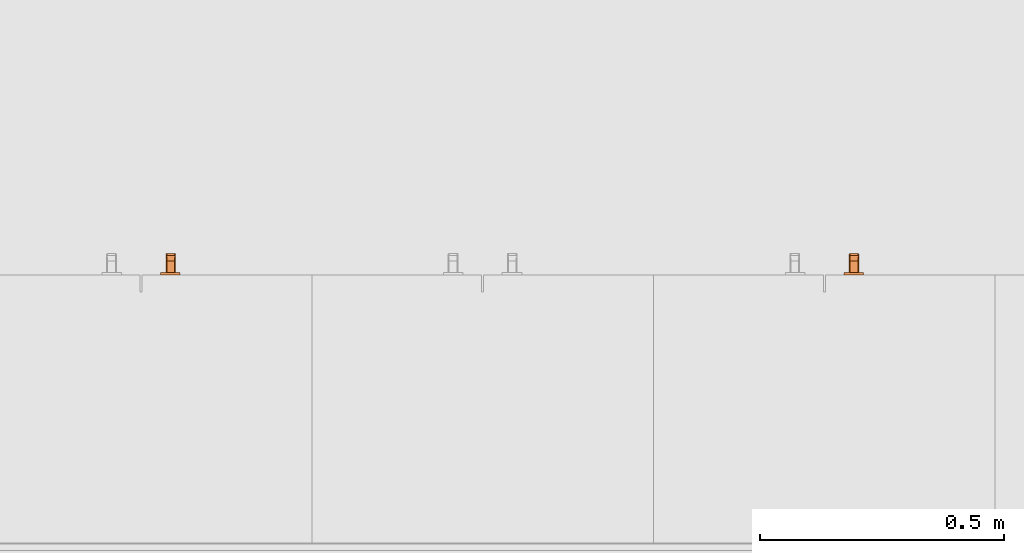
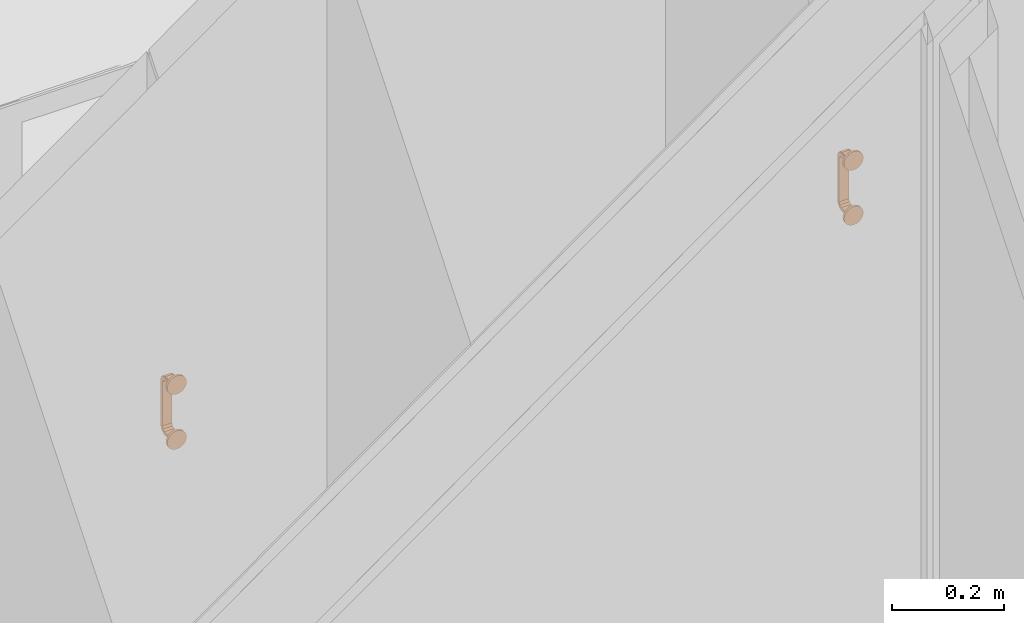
# One storey, part 45 of 67: 2 proxies.
"""IFC4 building model written with IfcOpenShell, lengths in millimetres."""

from ifc_helpers import new_model, entity, si_unit, converted_unit, direction, frame, origin, place, context, subcontext, project, spatial, polygons, source, transform, mapped, material, type_object, type_shapes, element, save


model = new_model("IFC4")

# Units and contexts
model_context = context("Model", 3, precision=0.01, world=origin(), true_north=direction((0.0, 1.0)))
body_context = subcontext(model_context, "Body", "Model", "MODEL_VIEW")
ifc_project = project(units=[si_unit("LENGTHUNIT", "METRE", prefix="MILLI"), si_unit("AREAUNIT", "SQUARE_METRE"), si_unit("VOLUMEUNIT", "CUBIC_METRE"), converted_unit("PLANEANGLEUNIT", "DEGREE", entity("IfcPlaneAngleMeasure", 0.017453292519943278), si_unit("PLANEANGLEUNIT", "RADIAN"), dimensions=[0, 0, 0, 0, 0, 0, 0])], contexts=[model_context])

# Site, building, storey, space
site_placement = place(None, origin())
site = spatial("IfcSite", under=ifc_project, at=site_placement, Name="Tomtens navn", CompositionType="ELEMENT")
building_placement = place(site_placement, origin())
building = spatial("IfcBuilding", under=site, at=building_placement, Name="Byggets navn", CompositionType="ELEMENT")
storey_placement = place(building_placement, origin())
storey = spatial("IfcBuildingStorey", under=building, at=storey_placement, Name="Level 01", CompositionType="ELEMENT", Elevation=2.1993652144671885e-25)
space_placement = place(storey_placement, origin())
space = spatial("IfcSpace", under=storey, at=space_placement, Name="102", CompositionType="ELEMENT", PredefinedType="NOTDEFINED")

# Proxies
ifc_material = material(Name="Handtag, vitt", Category="Unassigned")
building_element_proxy_type = type_object("IfcBuildingElementProxyType", Name="Handtag skåp1:Handtag skåp", PredefinedType="NOTDEFINED", material=ifc_material)
shared_shape = source(origin(), body_context, "Body", "Tessellation", [
    polygons([(8.670220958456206, 4.999999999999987, 4.021099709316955), (-7.329779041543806, 4.999999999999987, 4.021099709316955), (-8.743992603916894, 4.9999999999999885, 3.435313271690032), (-9.32977904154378, 4.999999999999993, 2.021099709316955), (-9.32977904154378, 5.0000000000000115, -4.0210997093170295), (10.67022095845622, 5.0000000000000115, -4.021099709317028), (10.67022095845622, 4.999999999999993, 2.0210997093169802), (10.084434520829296, 4.9999999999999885, 3.435313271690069), (10.67022095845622, 28.000000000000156, 2.0210997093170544), (10.084434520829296, 28.000000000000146, 3.435313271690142), (8.670220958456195, 28.000000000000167, 4.0210997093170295), (8.670220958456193, 15.654960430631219, 4.02109970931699), (10.67022095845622, 17.345040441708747, 2.02109970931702), (10.08659387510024, 16.21238630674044, 3.433150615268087), (10.67022095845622, 28.000000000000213, -4.021099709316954), (10.67022095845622, 33.64193450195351, -6.358065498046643), (10.67022095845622, 35.97890029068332, -11.999999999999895), (10.67022095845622, 35.97890029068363, -107.99999999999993), (10.67022095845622, 33.641934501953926, -113.64193450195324), (10.67022095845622, 28.000000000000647, -115.97890029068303), (10.67022095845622, 4.999999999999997, -115.97890029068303), (10.67022095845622, 4.999999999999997, -122.02109970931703), (10.67022095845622, 28.000000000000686, -122.02109970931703), (10.67022095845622, 37.914414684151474, -117.91441468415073), (10.67022095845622, 42.02109970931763, -107.99999999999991), (10.67022095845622, 42.0210997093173, -11.999999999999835), (10.67022095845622, 37.914414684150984, -2.085585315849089), (-9.32977904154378, 28.000000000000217, -4.021099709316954), (-9.32977904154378, 28.000000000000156, 2.02109970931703), (-9.32977904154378, 37.91441468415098, -2.085585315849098), (-9.32977904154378, 42.02109970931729, -11.999999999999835), (-9.32977904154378, 42.02109970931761, -107.99999999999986), (-9.32977904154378, 37.91441468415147, -117.91441468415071), (-9.32977904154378, 28.00000000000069, -122.02109970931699), (-9.32977904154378, 4.999999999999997, -122.021099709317), (-9.32977904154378, 4.999999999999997, -115.978900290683), (-9.32977904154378, 28.000000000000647, -115.97890029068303), (-9.32977904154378, 33.641934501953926, -113.64193450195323), (-9.32977904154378, 35.97890029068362, -107.99999999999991), (-9.32977904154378, 35.978900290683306, -11.999999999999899), (-9.32977904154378, 33.64193450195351, -6.358065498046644), (-7.329779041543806, 28.00000000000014, 4.0210997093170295), (-8.743992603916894, 28.000000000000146, 3.435313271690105), (-9.32977904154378, 15.654959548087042, 2.021099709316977), (-7.3297790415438, 17.34503999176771, 4.021099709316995), (-8.741829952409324, 16.21238644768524, 3.43747262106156), (10.084434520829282, 43.43531327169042, -11.999999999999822), (8.670220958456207, 44.021099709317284, -11.999999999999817), (8.670220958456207, 39.328628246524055, -0.6713717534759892), (10.67022095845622, 31.60126528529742, 0.5294067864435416), (8.670220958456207, 41.03771385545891, -4.797469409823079), (10.084434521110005, 40.40873190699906, -2.8200071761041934), (8.670220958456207, 35.20253058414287, 1.0377138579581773), (9.809043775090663, 37.34144424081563, 0.5752165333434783), (9.818751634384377, 32.92350079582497, 2.8642465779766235), (10.67022095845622, 39.96775719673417, -7.042792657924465), (10.377327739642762, 28.000000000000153, 2.7282064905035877), (8.670220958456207, 42.529406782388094, -8.398734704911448), (9.779150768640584, 42.65191997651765, -6.400304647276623), (10.431420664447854, 34.75591670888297, 1.357514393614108), (10.447049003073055, 37.64140257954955, -0.5884869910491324), (10.67022095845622, 34.7578399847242, -0.7780892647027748), (10.453824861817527, 31.52927433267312, 2.5026982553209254), (8.670220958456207, 31.601265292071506, 2.5294067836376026), (8.670220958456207, 40.18317105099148, -2.734420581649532), (9.435587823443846, 40.00295364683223, -1.6197407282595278), (9.543801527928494, 41.59747716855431, -3.9137042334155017), (10.67022095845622, 38.941085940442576, -4.564188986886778), (10.50224699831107, 40.95405539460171, -4.794062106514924), (10.477567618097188, 42.45420227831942, -8.47617064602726), (9.193272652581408, 43.80444460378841, -11.999999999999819), (9.638611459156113, 43.538770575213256, -9.303396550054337), (10.67022095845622, 40.99442845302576, -9.521396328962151), (-7.329779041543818, 44.021099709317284, -11.999999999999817), (-8.743992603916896, 43.43531327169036, -11.999999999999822), (-7.329779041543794, 39.328628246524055, -0.6713717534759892), (-7.329779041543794, 35.20253057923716, 1.0377138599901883), (-8.743992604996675, 37.179992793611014, 0.40873192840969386), (-9.32977904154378, 40.52940677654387, -8.398734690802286), (-7.329779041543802, 41.03771385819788, -4.797469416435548), (-8.468601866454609, 40.57521654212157, -2.6585557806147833), (-8.47830971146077, 42.864246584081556, -7.076499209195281), (-9.32977904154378, 32.95720734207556, -0.03224280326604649), (-9.036885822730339, 42.728206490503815, -11.999999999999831), (-7.329779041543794, 31.601265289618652, 2.529406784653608), (-8.43870885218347, 33.59969531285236, 2.6519199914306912), (-9.090978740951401, 41.357514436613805, -5.244083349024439), (-9.106607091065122, 39.41151304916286, -2.358597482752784), (-9.32977904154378, 39.22191073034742, -5.242160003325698), (-9.113382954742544, 42.502698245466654, -8.470725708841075), (-7.32977904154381, 42.52940678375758, -8.398734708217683), (-7.329779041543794, 37.26557941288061, 0.18317105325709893), (-8.095145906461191, 36.54048464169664, 1.37463273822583), (-8.18279176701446, 38.85536792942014, -0.47819170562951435), (-9.32977904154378, 35.43581101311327, -1.0589140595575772), (-7.852830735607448, 28.00000000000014, 3.8044446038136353), (-8.29816953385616, 30.69660343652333, 3.5387705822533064), (-9.060718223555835, 31.048754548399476, 2.7104148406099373), (-9.074370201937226, 34.340507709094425, 1.5930015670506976), (-9.32977904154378, 30.478603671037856, 0.9944284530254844), (-7.32977904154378, 33.664314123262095, 1.6748639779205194), (8.670220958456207, 33.664314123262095, 1.6748639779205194), (8.670220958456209, 30.748770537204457, 2.882521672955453), (-7.32977904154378, 41.67486397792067, -6.335685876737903), (8.670220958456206, 41.67486397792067, -6.335685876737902), (8.670220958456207, 40.50174611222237, -3.503528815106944), (-7.32977904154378, 36.496471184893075, 0.5017461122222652), (8.670220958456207, 36.496471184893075, 0.5017461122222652), (-7.32977904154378, 30.83215706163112, 2.847981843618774), (8.670220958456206, 42.882521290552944, -9.251228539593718), (-7.32977904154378, 42.84798184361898, -9.167842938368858), (-7.32977904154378, 40.50174611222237, -3.503528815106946), (10.084434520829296, 43.435313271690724, -107.99999999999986), (8.670220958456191, 44.0210997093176, -107.99999999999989), (10.67022095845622, 42.02109970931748, -61.380159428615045), (8.670220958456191, 44.021099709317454, -60.0000005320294), (8.670220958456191, 44.02109970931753, -83.30992070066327), (10.67022095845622, 42.021099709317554, -84.69007971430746), (8.670220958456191, 44.021099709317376, -36.690079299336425), (10.67022095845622, 42.02109970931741, -36.690079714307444), (10.67022095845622, 42.021099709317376, -24.34503985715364), (8.670220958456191, 44.02109970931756, -95.65496088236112), (8.670220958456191, 44.02109970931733, -24.34504018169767), (10.67022095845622, 42.021099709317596, -95.65496014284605), (10.084434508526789, 43.43531328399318, -90.17251993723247), (10.67022095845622, 42.02109970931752, -73.035119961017), (10.043884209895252, 43.4747328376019, -67.20763959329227), (10.084434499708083, 43.435313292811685, -30.517560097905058), (10.084434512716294, 43.435313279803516, -43.72292802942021), (10.67022095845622, 42.021099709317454, -49.03511957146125), (10.049878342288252, 43.469044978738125, -55.46284370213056), (8.67022095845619, 44.02109970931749, -71.65496114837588), (10.18815291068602, 43.32336027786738, -78.66752152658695), (8.670220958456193, 44.02109970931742, -48.34503991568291), (-7.329779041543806, 44.0210997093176, -107.99999999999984), (-8.743992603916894, 43.43531327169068, -107.99999999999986), (-7.3297790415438, 44.021099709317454, -61.38015981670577), (-9.32977904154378, 42.021099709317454, -59.999999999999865), (-9.32977904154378, 42.02109970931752, -83.30992051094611), (-7.329779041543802, 44.02109970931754, -84.69008022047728), (-9.32977904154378, 42.02109970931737, -36.69007991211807), (-7.329779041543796, 44.021099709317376, -36.69007990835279), (-7.329779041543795, 44.02109970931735, -24.345039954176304), (-9.32977904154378, 42.02109970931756, -95.65496025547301), (-9.32977904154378, 42.02109970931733, -24.345040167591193), (-7.329779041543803, 44.021099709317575, -95.65496067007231), (-8.743992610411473, 43.43531326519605, -90.17252002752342), (-7.3297790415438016, 44.0210997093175, -73.03512001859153), (-8.783412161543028, 43.39476296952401, -67.2076399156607), (-8.743992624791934, 43.4353132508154, -30.517560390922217), (-8.74399260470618, 43.43531327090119, -43.72292838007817), (-7.329779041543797, 44.02109970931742, -49.03511986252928), (-8.777724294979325, 43.40075710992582, -55.46284405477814), (-9.32977904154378, 42.02109970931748, -71.65496025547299), (-8.632039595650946, 43.53903167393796, -78.6675217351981), (-9.32977904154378, 42.02109970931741, -48.345039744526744), (10.08443452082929, 28.0000000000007, -123.43531327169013), (8.670220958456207, 28.000000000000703, -124.02109970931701), (8.670220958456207, 39.32862824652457, -119.32862824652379), (10.67022095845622, 40.52940678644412, -111.60126528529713), (8.670220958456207, 35.202530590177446, -121.03771385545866), (10.084434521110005, 37.179992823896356, -120.4087319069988), (8.670220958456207, 41.03771385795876, -115.20253058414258), (9.809043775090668, 40.575216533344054, -117.34144424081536), (9.818751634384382, 42.864246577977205, -112.9235007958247), (10.67022095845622, 32.95720734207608, -119.96775719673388), (10.377327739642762, 42.728206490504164, -107.99999999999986), (8.670220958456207, 31.601265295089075, -122.52940678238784), (9.779150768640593, 33.5996953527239, -122.65191997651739), (10.431420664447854, 41.357514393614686, -114.7559167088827), (10.447049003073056, 39.41151300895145, -117.64140257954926), (10.67022095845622, 39.2219107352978, -114.75783998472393), (10.453824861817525, 42.50269825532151, -111.52927433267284), (8.670220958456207, 42.52940678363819, -111.60126529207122), (8.670220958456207, 37.26557941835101, -120.18317105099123), (9.43558782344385, 38.38025927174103, -120.00295364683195), (9.543801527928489, 36.08629576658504, -121.59747716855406), (10.67022095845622, 35.435811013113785, -118.9410859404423), (10.50224699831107, 35.20593789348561, -120.95405539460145), (10.477567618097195, 31.523829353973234, -122.45420227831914), (9.193272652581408, 28.000000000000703, -123.80444460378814), (9.638611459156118, 30.696603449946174, -123.538770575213), (10.67022095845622, 30.47860367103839, -120.99442845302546), (-7.329779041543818, 28.000000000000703, -124.02109970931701), (-8.743992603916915, 28.0000000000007, -123.43531327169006), (-7.329779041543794, 39.32862824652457, -119.32862824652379), (-7.329779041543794, 41.03771385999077, -115.20253057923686), (-8.743992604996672, 40.40873192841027, -117.17999279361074), (-9.32977904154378, 31.601265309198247, -120.52940677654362), (-7.329779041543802, 35.20253058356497, -121.03771385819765), (-8.468601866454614, 37.34144421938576, -120.57521654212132), (-8.478309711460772, 32.92350079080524, -122.8642465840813), (-9.32977904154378, 39.967757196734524, -112.95720734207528), (-9.036885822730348, 28.000000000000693, -122.72820649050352), (-7.329779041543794, 42.529406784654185, -111.60126528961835), (-8.438708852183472, 42.65191999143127, -113.59969531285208), (-9.090978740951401, 34.75591665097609, -121.35751443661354), (-9.106607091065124, 37.64140251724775, -119.41151304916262), (-9.32977904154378, 34.75783999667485, -119.22191073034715), (-9.113382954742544, 31.529274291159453, -122.50269824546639), (-7.329779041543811, 31.601265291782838, -122.52940678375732), (-7.329779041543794, 40.18317105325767, -117.26557941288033), (-8.095145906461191, 41.37463273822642, -116.54048464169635), (-8.182791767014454, 39.52180829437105, -118.85536792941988), (-9.32977904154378, 38.941085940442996, -115.435811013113), (-7.852830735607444, 43.804444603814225, -107.99999999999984), (-8.298169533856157, 43.53877058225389, -110.69660343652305), (-9.060718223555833, 42.710414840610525, -111.04875454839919), (-9.074370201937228, 41.59300156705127, -114.34050770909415), (-9.32977904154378, 40.99442845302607, -110.47860367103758), (-7.32977904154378, 41.6748639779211, -113.66431412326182), (8.670220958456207, 41.6748639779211, -113.66431412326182), (8.670220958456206, 42.88252167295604, -110.74877053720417), (-7.32977904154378, 33.66431412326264, -121.67486397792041), (8.670220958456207, 33.66431412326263, -121.67486397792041), (8.670220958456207, 36.4964711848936, -120.50174611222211), (-7.32977904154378, 40.50174611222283, -116.4964711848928), (8.670220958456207, 40.50174611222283, -116.4964711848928), (-7.32977904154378, 42.84798184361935, -110.83215706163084), (8.670220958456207, 30.748771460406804, -122.88252129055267), (-7.329779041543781, 30.83215706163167, -122.84798184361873), (-7.32977904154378, 36.49647118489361, -120.50174611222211), (8.670220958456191, 4.99999999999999, -124.021099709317), (10.084434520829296, 4.99999999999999, -123.43531327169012), (-8.743992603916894, 4.99999999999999, -123.43531327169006), (-7.32977904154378, 4.99999999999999, -124.02109970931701), (8.670220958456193, 17.34504139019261, -124.021099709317), (10.67022095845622, 15.65496022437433, -122.02109970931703), (10.08659387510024, 16.787613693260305, -123.43315061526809), (-9.32977904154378, 17.34504010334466, -122.02109970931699), (-7.3297790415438, 15.6549594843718, -124.021099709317), (-8.741829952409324, 16.787613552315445, -123.43747262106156)], [[[4, 5, 6, 7, 8, 1, 2, 3]], [[18, 17, 40, 39]], [[226, 223, 224, 22, 21, 36, 35, 225]], [[13, 9, 57, 10]], [[14, 13, 10]], [[11, 12, 14]], [[1, 8, 12]], [[12, 8, 14]], [[13, 14, 7]], [[14, 8, 7]], [[14, 10, 11]], [[6, 15, 16, 17, 18, 19, 20, 21, 22, 228, 23, 183, 166, 178, 24, 172, 160, 25, 124, 118, 126, 115, 130, 120, 121, 26, 73, 56, 68, 27, 62, 50, 9, 13, 7]], [[15, 6, 5, 28]], [[158, 227, 223, 226, 231, 184]], [[36, 37, 38, 39, 40, 41, 28, 5, 4, 44, 29, 100, 83, 95, 30, 89, 79, 31, 145, 141, 156, 138, 154, 139, 144, 32, 210, 193, 205, 33, 199, 189, 34, 230, 35]], [[45, 42, 96, 43]], [[46, 45, 43]], [[29, 44, 46]], [[4, 3, 44]], [[44, 3, 46]], [[45, 46, 2]], [[46, 3, 2]], [[46, 43, 29]], [[2, 1, 12, 11, 42, 45]], [[21, 20, 37, 36]], [[60, 62, 61]], [[68, 56, 69]], [[66, 65, 49]], [[55, 54, 53]], [[59, 58, 105, 51]], [[67, 51, 106, 65]], [[69, 56, 70]], [[50, 60, 63]], [[55, 64, 10]], [[59, 67, 52]], [[54, 49, 108, 53]], [[72, 71, 58]], [[54, 55, 60]], [[69, 61, 68]], [[66, 52, 67]], [[68, 61, 27]], [[55, 10, 63]], [[63, 10, 57, 9]], [[71, 48, 110, 58]], [[70, 26, 47]], [[54, 60, 61]], [[63, 9, 50]], [[54, 61, 52]], [[27, 61, 62]], [[60, 50, 62]], [[63, 60, 55]], [[10, 64, 103, 11]], [[55, 53, 102, 64]], [[66, 54, 52]], [[66, 49, 54]], [[66, 67, 65]], [[67, 59, 51]], [[69, 52, 61]], [[69, 59, 52]], [[59, 69, 70]], [[70, 72, 59]], [[73, 26, 70, 56]], [[47, 71, 72]], [[47, 72, 70]], [[59, 72, 58]], [[15, 28, 41, 16]], [[41, 40, 17, 16]], [[96, 42, 109, 85]], [[79, 87, 90]], [[86, 85, 101, 77]], [[86, 99, 98]], [[93, 77, 107, 92]], [[81, 82, 87]], [[80, 82, 81]], [[78, 95, 99]], [[87, 89, 88]], [[78, 99, 86]], [[93, 94, 78]], [[82, 91, 75]], [[81, 76, 112, 80]], [[94, 93, 92]], [[88, 78, 94]], [[95, 88, 30]], [[82, 75, 90]], [[90, 75, 84, 31]], [[43, 97, 98]], [[86, 98, 97]], [[81, 87, 88]], [[90, 31, 79]], [[94, 81, 88]], [[30, 88, 89]], [[87, 79, 89]], [[90, 87, 82]], [[75, 91, 111, 74]], [[82, 80, 104, 91]], [[93, 86, 77]], [[93, 78, 86]], [[94, 76, 81]], [[76, 94, 92]], [[78, 88, 95]], [[43, 96, 97]], [[97, 96, 85]], [[86, 97, 85]], [[98, 29, 43]], [[99, 95, 83, 100]], [[100, 98, 99]], [[100, 29, 98]], [[42, 11, 103, 64, 102, 53, 108, 49, 76, 92, 107, 77, 101, 85, 109]], [[105, 58, 110, 48, 74, 111, 91, 104, 80, 112, 76, 49, 65, 106, 51]], [[47, 26, 121, 120, 130, 129, 128]], [[124, 25, 167, 113, 125, 118]], [[118, 133, 126]], [[127, 115, 126]], [[123, 48, 71, 47, 128, 129, 134, 119]], [[113, 114, 122, 117, 125]], [[129, 130, 131]], [[115, 131, 130]], [[133, 127, 126]], [[132, 116, 127]], [[125, 117, 133]], [[116, 134, 131]], [[127, 116, 131]], [[127, 131, 115]], [[134, 129, 131]], [[132, 127, 133]], [[117, 132, 133]], [[125, 133, 118]], [[75, 74, 143, 142, 152, 151, 150]], [[146, 135, 206, 136, 147, 140]], [[140, 155, 148]], [[149, 137, 148]], [[145, 31, 84, 75, 150, 151, 156, 141]], [[136, 32, 144, 139, 147]], [[151, 152, 153]], [[137, 153, 152]], [[155, 149, 148]], [[154, 138, 149]], [[147, 139, 155]], [[138, 156, 153]], [[149, 138, 153]], [[149, 153, 137]], [[156, 151, 153]], [[154, 149, 155]], [[139, 154, 155]], [[147, 155, 140]], [[74, 48, 123, 119, 134, 116, 132, 117, 122, 114, 135, 146, 140, 148, 137, 152, 142, 143]], [[170, 172, 171]], [[178, 166, 179]], [[176, 175, 159]], [[165, 164, 163]], [[169, 168, 215, 161]], [[177, 161, 216, 175]], [[179, 166, 180]], [[160, 170, 173]], [[165, 174, 113]], [[169, 177, 162]], [[164, 159, 218, 163]], [[182, 181, 168]], [[164, 165, 170]], [[179, 171, 178]], [[176, 162, 177]], [[178, 171, 24]], [[165, 113, 173]], [[173, 113, 167, 25]], [[181, 158, 220, 168]], [[180, 23, 157]], [[164, 170, 171]], [[173, 25, 160]], [[164, 171, 162]], [[24, 171, 172]], [[170, 160, 172]], [[173, 170, 165]], [[113, 174, 213, 114]], [[165, 163, 212, 174]], [[176, 164, 162]], [[176, 159, 164]], [[176, 177, 175]], [[177, 169, 161]], [[179, 162, 171]], [[179, 169, 162]], [[169, 179, 180]], [[180, 182, 169]], [[183, 23, 180, 166]], [[157, 181, 182]], [[157, 182, 180]], [[169, 182, 168]], [[18, 39, 38, 19]], [[38, 37, 20, 19]], [[206, 135, 219, 195]], [[189, 197, 200]], [[196, 195, 211, 187]], [[196, 209, 208]], [[203, 187, 217, 202]], [[191, 192, 197]], [[190, 192, 191]], [[188, 205, 209]], [[197, 199, 198]], [[188, 209, 196]], [[203, 204, 188]], [[192, 201, 185]], [[191, 186, 222, 190]], [[204, 203, 202]], [[188, 196, 203]], [[205, 198, 33]], [[192, 185, 200]], [[200, 185, 194, 34]], [[136, 207, 208]], [[196, 208, 207]], [[191, 197, 198]], [[200, 34, 189]], [[204, 191, 198]], [[33, 198, 199]], [[197, 189, 199]], [[200, 197, 192]], [[185, 201, 221, 184]], [[192, 190, 214, 201]], [[187, 203, 196]], [[188, 204, 198]], [[204, 186, 191]], [[186, 204, 202]], [[188, 198, 205]], [[136, 206, 207]], [[207, 206, 195]], [[196, 207, 195]], [[208, 32, 136]], [[209, 205, 193, 210]], [[210, 208, 209]], [[210, 32, 208]], [[135, 114, 213, 174, 212, 163, 218, 159, 186, 202, 217, 187, 211, 195, 219]], [[215, 168, 220, 158, 184, 221, 201, 214, 190, 222, 186, 159, 175, 216, 161]], [[22, 224, 228]], [[229, 228, 224]], [[223, 227, 229]], [[227, 158, 181, 157]], [[227, 157, 229]], [[228, 229, 23]], [[229, 157, 23]], [[229, 224, 223]], [[226, 225, 231]], [[232, 231, 225]], [[35, 230, 232]], [[230, 34, 194, 185]], [[230, 185, 232]], [[231, 232, 184]], [[232, 185, 184]], [[232, 225, 35]]], closed=True),
    polygons([(-20.00000000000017, 4.999999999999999, 4.9806020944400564e-15), (-19.318516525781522, 4.999999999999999, 5.176380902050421), (-17.320508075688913, 4.999999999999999, 9.999999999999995), (-14.142135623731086, 4.999999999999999, 14.142135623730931), (-10.000000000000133, 4.999999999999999, 17.320508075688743), (-5.176380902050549, 4.999999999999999, 19.318516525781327), (-1.3958834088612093e-13, 4.999999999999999, 19.99999999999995), (5.176380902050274, 4.999999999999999, 19.31851652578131), (9.99999999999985, 4.999999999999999, 17.32050807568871), (14.142135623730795, 4.999999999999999, 14.142135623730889), (17.32050807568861, 4.999999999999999, 9.999999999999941), (19.3185165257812, 4.999999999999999, 5.17638090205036), (19.999999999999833, 4.999999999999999, -1.622393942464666e-13), (19.318516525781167, 4.999999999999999, -5.176380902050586), (17.320508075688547, 4.999999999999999, -10.000000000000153), (14.142135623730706, 4.999999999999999, -14.142135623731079), (9.999999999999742, 4.999999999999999, -17.320508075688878), (5.176380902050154, 4.999999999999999, -19.31851652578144), (-2.580269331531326e-13, 4.999999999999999, -20.00000000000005), (-5.176380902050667, 4.999999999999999, -19.318516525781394), (-10.000000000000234, 4.999999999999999, -17.320508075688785), (-14.14213562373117, 4.999999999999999, -14.142135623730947), (-17.320508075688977, 4.999999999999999, -9.999999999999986), (-19.318516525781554, 4.999999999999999, -5.176380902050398), (-20.00000000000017, 0.0, 1.386238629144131e-14), (-19.318516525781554, 0.0, -5.176380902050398), (-17.320508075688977, 0.0, -9.999999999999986), (-14.14213562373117, 0.0, -14.142135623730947), (-10.000000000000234, 0.0, -17.320508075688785), (-5.176380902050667, 0.0, -19.318516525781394), (-2.580269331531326e-13, 0.0, -20.00000000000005), (5.176380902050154, 0.0, -19.31851652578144), (9.999999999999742, 0.0, -17.320508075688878), (14.142135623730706, 0.0, -14.142135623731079), (17.320508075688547, 0.0, -10.000000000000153), (19.318516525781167, 0.0, -5.176380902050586), (19.999999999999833, 0.0, -5.075939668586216e-14), (19.3185165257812, 0.0, 5.17638090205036), (17.32050807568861, 0.0, 9.999999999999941), (14.142135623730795, 0.0, 14.142135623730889), (9.99999999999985, 0.0, 17.32050807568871), (5.176380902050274, 0.0, 19.31851652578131), (-1.3958834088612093e-13, 0.0, 19.99999999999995), (-5.176380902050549, 0.0, 19.318516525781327), (-10.000000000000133, 0.0, 17.320508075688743), (-14.142135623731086, 0.0, 14.142135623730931), (-17.320508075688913, 0.0, 9.999999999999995), (-19.318516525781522, 0.0, 5.176380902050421)], [[[16, 17, 18, 19, 20, 21, 22, 23, 24, 1, 2, 3, 4, 5, 6, 7, 8, 9, 10, 11, 12, 13, 14, 15]], [[41, 42, 43, 44, 45, 46, 47, 48, 25, 26, 27, 28, 29, 30, 31, 32, 33, 34, 35, 36, 37, 38, 39, 40]], [[25, 1, 24, 26]], [[26, 24, 23, 27]], [[29, 28, 22, 21]], [[22, 28, 27, 23]], [[30, 29, 21, 20]], [[30, 20, 19, 31]], [[31, 19, 18, 32]], [[32, 18, 17, 33]], [[35, 34, 16, 15]], [[16, 34, 33, 17]], [[36, 35, 15, 14]], [[36, 14, 13, 37]], [[37, 13, 12, 38]], [[38, 12, 11, 39]], [[41, 40, 10, 9]], [[10, 40, 39, 11]], [[42, 41, 9, 8]], [[42, 8, 7, 43]], [[43, 7, 6, 44]], [[44, 6, 5, 45]], [[47, 46, 4, 3]], [[4, 46, 45, 5]], [[48, 47, 3, 2]], [[48, 2, 1, 25]]], closed=True),
    polygons([(-20.000000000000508, 4.999999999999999, -120.00000000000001), (-19.31851652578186, 4.999999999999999, -114.82361909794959), (-17.320508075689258, 4.999999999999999, -110.00000000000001), (-14.142135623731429, 4.999999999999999, -105.85786437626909), (-10.000000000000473, 4.999999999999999, -102.67949192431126), (-5.176380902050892, 4.999999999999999, -100.68148347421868), (-4.779843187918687e-13, 4.999999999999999, -100.00000000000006), (5.176380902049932, 4.999999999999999, -100.6814834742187), (9.99999999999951, 4.999999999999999, -102.6794919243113), (14.142135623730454, 4.999999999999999, -105.85786437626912), (17.32050807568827, 4.999999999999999, -110.00000000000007), (19.31851652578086, 4.999999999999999, -114.82361909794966), (19.999999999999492, 4.999999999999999, -120.00000000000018), (19.318516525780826, 4.999999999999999, -125.1763809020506), (17.320508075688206, 4.999999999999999, -130.00000000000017), (14.142135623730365, 4.999999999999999, -134.1421356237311), (9.999999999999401, 4.999999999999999, -137.3205080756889), (5.176380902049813, 4.999999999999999, -139.31851652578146), (-6.006528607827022e-13, 4.999999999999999, -140.00000000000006), (-5.176380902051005, 4.999999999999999, -139.3185165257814), (-10.000000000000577, 4.999999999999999, -137.3205080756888), (-14.142135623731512, 4.999999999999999, -134.14213562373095), (-17.32050807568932, 4.999999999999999, -130.0), (-19.31851652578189, 4.999999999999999, -125.17638090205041), (-20.000000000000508, 0.0, -120.0), (-19.31851652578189, 0.0, -125.17638090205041), (-17.32050807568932, 0.0, -130.0), (-14.142135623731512, 0.0, -134.14213562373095), (-10.000000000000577, 0.0, -137.3205080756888), (-5.176380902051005, 0.0, -139.3185165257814), (-6.006528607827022e-13, 0.0, -140.00000000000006), (5.176380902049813, 0.0, -139.31851652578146), (9.999999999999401, 0.0, -137.3205080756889), (14.142135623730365, 0.0, -134.1421356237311), (17.320508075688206, 0.0, -130.00000000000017), (19.318516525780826, 0.0, -125.1763809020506), (19.999999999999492, 0.0, -120.00000000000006), (19.31851652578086, 0.0, -114.82361909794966), (17.32050807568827, 0.0, -110.00000000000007), (14.142135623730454, 0.0, -105.85786437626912), (9.99999999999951, 0.0, -102.6794919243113), (5.176380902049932, 0.0, -100.6814834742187), (-4.779843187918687e-13, 0.0, -100.00000000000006), (-5.176380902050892, 0.0, -100.68148347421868), (-10.000000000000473, 0.0, -102.67949192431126), (-14.142135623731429, 0.0, -105.85786437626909), (-17.320508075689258, 0.0, -110.00000000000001), (-19.31851652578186, 0.0, -114.82361909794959)], [[[17, 18, 19, 20, 21, 22, 23, 24, 1, 2, 3, 4, 5, 6, 7, 8, 9, 10, 11, 12, 13, 14, 15, 16]], [[41, 42, 43, 44, 45, 46, 47, 48, 25, 26, 27, 28, 29, 30, 31, 32, 33, 34, 35, 36, 37, 38, 39, 40]], [[25, 1, 24, 26]], [[26, 24, 23, 27]], [[29, 28, 22, 21]], [[22, 28, 27, 23]], [[30, 29, 21, 20]], [[30, 20, 19, 31]], [[31, 19, 18, 32]], [[32, 18, 17, 33]], [[35, 34, 16, 15]], [[16, 34, 33, 17]], [[36, 35, 15, 14]], [[36, 14, 13, 37]], [[37, 13, 12, 38]], [[38, 12, 11, 39]], [[41, 40, 10, 9]], [[10, 40, 39, 11]], [[42, 41, 9, 8]], [[42, 8, 7, 43]], [[43, 7, 6, 44]], [[44, 6, 5, 45]], [[47, 46, 4, 3]], [[4, 46, 45, 5]], [[48, 47, 3, 2]], [[48, 2, 1, 25]]], closed=True),
])
type_shapes(building_element_proxy_type, [shared_shape])
for number, where, name in (
    (1, (66871.85352810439, 18543.46645692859, 1120.0), "Handtag skåp1:Handtag skåp"),
    (2, (65471.853528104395, 18543.466456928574, 1120.0), "Handtag skåp1:Handtag skåp"),
):
    element("IfcBuildingElementProxy", number, at=place(space_placement, frame(where)), inside=space, type_object=building_element_proxy_type, material=ifc_material, Name=name, PredefinedType="NOTDEFINED", context=body_context, shape_type="MappedRepresentation", body=[
        mapped(shared_shape, transform((0.0, 0.0, 0.0), scale=1.0)),
    ])

save(model, "model.ifc")
